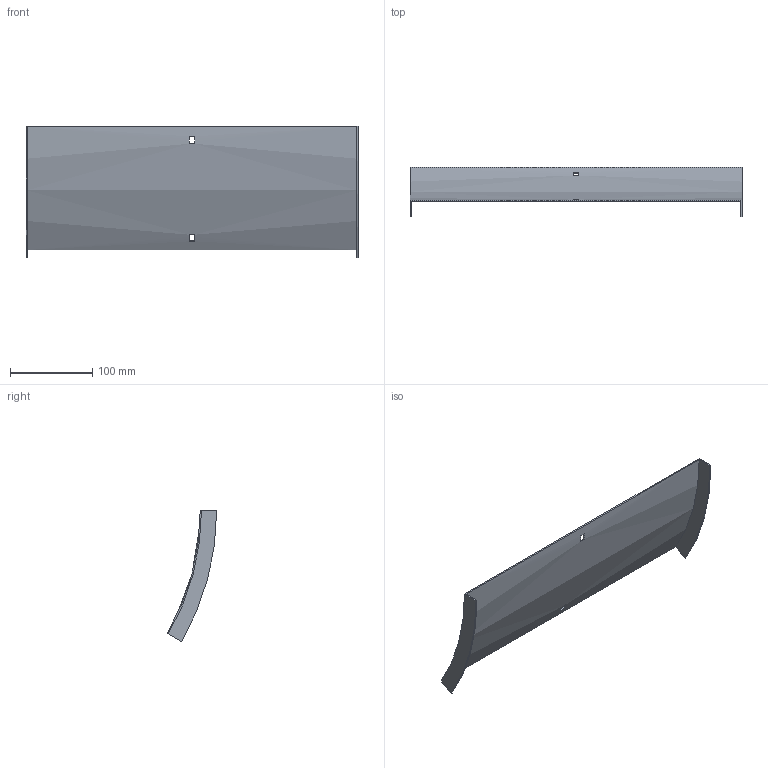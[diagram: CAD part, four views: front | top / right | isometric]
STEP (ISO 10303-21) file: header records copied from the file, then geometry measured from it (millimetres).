
FILE_DESCRIPTION (( 'STEP AP214' ), '1' );
FILE_NAME ('B2X32N3R400X.step', '2025-03-20T09:40:01', ( '' ), ( '' ), 'SwSTEP 2.0', 'SolidWorks 2023', '' );
FILE_SCHEMA (( 'AUTOMOTIVE_DESIGN' ));
Length unit declared in the file: millimetre
Products named in the file (1): B2X32N3R400X
Bounding box: 403 x 59.99 x 159.25 mm (x, y, z)
Volume: 103528.2 mm3; surface area: 139949.9 mm2
Topology: 1 solids, 1 shells, 18 faces, 48 edges, 32 vertices
Faces by surface type: plane 14, cylinder 4
Entity records: 599 total; most frequent: DIRECTION 102, CARTESIAN_POINT 99, ORIENTED_EDGE 96, EDGE_CURVE 48, AXIS2_PLACEMENT_3D 35, LINE 32, VECTOR 32, VERTEX_POINT 32
